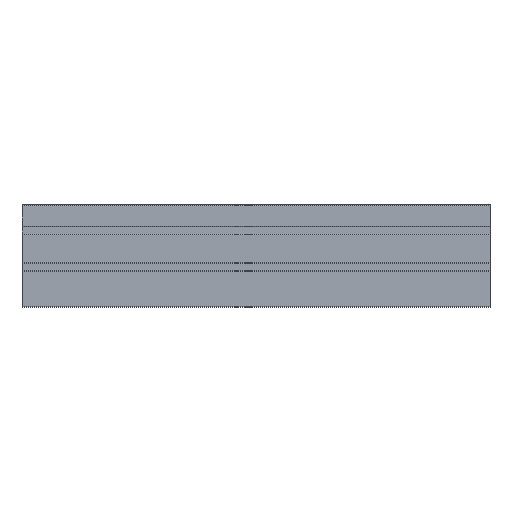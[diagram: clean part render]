
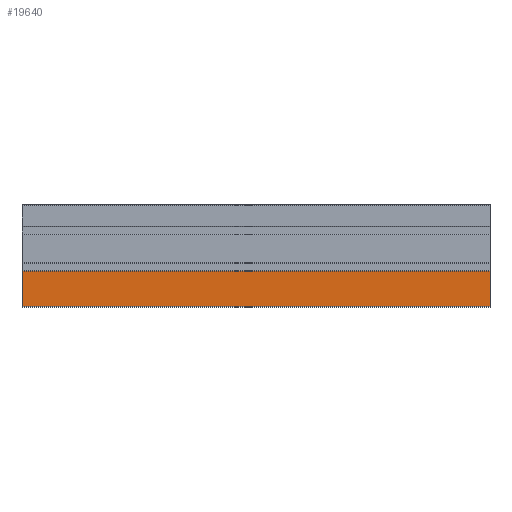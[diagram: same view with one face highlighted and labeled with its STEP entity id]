
A CAD part, front view. The second image highlights one B-rep face of the part: STEP entity #19640.
In plain terms, the highlighted planar face has unit normal (0, -1, 0).
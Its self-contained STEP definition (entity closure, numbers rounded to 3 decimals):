
#19250=CARTESIAN_POINT('',(-510.,41.,
41.3));
#19260=DIRECTION('',(0.,-1.,0.));
#19270=DIRECTION('',(0.,0.,-1.));
#19280=AXIS2_PLACEMENT_3D('',#19250,#19260,#19270);
#19290=PLANE('',#19280);
#19300=CARTESIAN_POINT('',(-190.,41.,
12.5));
#19310=DIRECTION('',(0.,0.,-1.));
#19320=VECTOR('',#19310,1.);
#19330=LINE('',#19300,#19320);
#19340=CARTESIAN_POINT('',(-190.,41.,
65.5));
#19350=VERTEX_POINT('',#19340);
#19360=CARTESIAN_POINT('',(-190.,41.,
41.3));
#19370=VERTEX_POINT('',#19360);
#19380=EDGE_CURVE('',#19350,#19370,#19330,.T.);
#19390=ORIENTED_EDGE('',*,*,#19380,.F.);
#19400=CARTESIAN_POINT('',(-510.,41.,
41.3));
#19410=DIRECTION('',(1.,0.,0.));
#19420=VECTOR('',#19410,1.);
#19430=LINE('',#19400,#19420);
#19440=CARTESIAN_POINT('',(-510.,41.,
41.3));
#19450=VERTEX_POINT('',#19440);
#19460=EDGE_CURVE('',#19450,#19370,#19430,.T.);
#19470=ORIENTED_EDGE('',*,*,#19460,.T.);
#19480=CARTESIAN_POINT('',(-510.,41.,
12.5));
#19490=DIRECTION('',(0.,0.,-1.));
#19500=VECTOR('',#19490,1.);
#19510=LINE('',#19480,#19500);
#19520=CARTESIAN_POINT('',(-510.,41.,
65.5));
#19530=VERTEX_POINT('',#19520);
#19540=EDGE_CURVE('',#19530,#19450,#19510,.T.);
#19550=ORIENTED_EDGE('',*,*,#19540,.T.);
#19560=CARTESIAN_POINT('',(-510.,41.,
65.5));
#19570=DIRECTION('',(1.,0.,0.));
#19580=VECTOR('',#19570,1.);
#19590=LINE('',#19560,#19580);
#19600=EDGE_CURVE('',#19530,#19350,#19590,.T.);
#19610=ORIENTED_EDGE('',*,*,#19600,.F.);
#19620=EDGE_LOOP('',(#19610,#19550,#19470,#19390));
#19630=FACE_OUTER_BOUND('',#19620,.T.);
#19640=ADVANCED_FACE('',(#19630),#19290,.T.);
